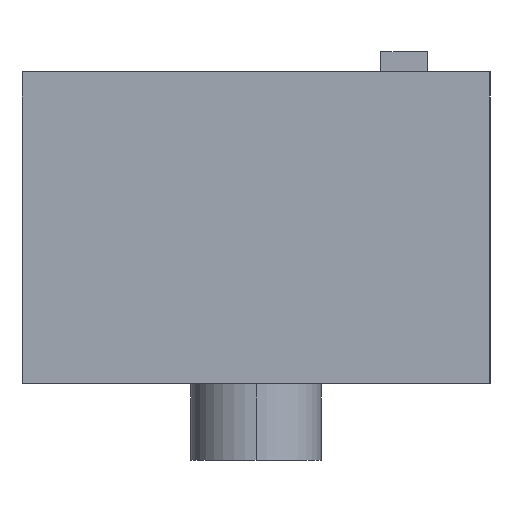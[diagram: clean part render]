
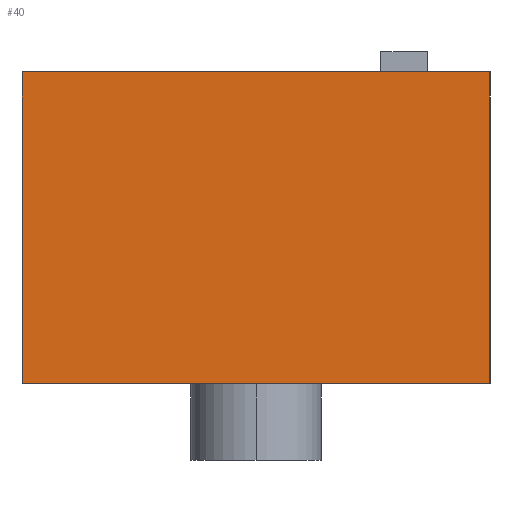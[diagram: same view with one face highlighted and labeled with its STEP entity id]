
A CAD part, left-side view. The second image highlights one B-rep face of the part: STEP entity #40.
In plain terms, the highlighted planar face has unit normal (-1, 0, 0).
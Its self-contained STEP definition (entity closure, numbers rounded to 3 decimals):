
#24 = VERTEX_POINT ( 'NONE', #358 ) ;
#40 = ADVANCED_FACE ( 'NONE', ( #394 ), #385, .T. ) ;
#49 = EDGE_CURVE ( 'NONE', #24, #82, #425, .T. ) ;
#50 = EDGE_CURVE ( 'NONE', #24, #1665, #417, .T. ) ;
#57 = ORIENTED_EDGE ( 'NONE', *, *, #1702, .F. ) ;
#59 = ORIENTED_EDGE ( 'NONE', *, *, #99, .T. ) ;
#63 = EDGE_LOOP ( 'NONE', ( #57, #79, #64, #59 ) ) ;
#64 = ORIENTED_EDGE ( 'NONE', *, *, #49, .T. ) ;
#79 = ORIENTED_EDGE ( 'NONE', *, *, #50, .F. ) ;
#82 = VERTEX_POINT ( 'NONE', #458 ) ;
#99 = EDGE_CURVE ( 'NONE', #82, #1663, #472, .T. ) ;
#358 = CARTESIAN_POINT ( 'NONE',  ( -15., 15., -20. ) ) ;
#372 = DIRECTION ( 'NONE',  ( 0., -1., 0. ) ) ;
#373 = DIRECTION ( 'NONE',  ( -1., 0., 0. ) ) ;
#374 = CARTESIAN_POINT ( 'NONE',  ( -15., 15., -20. ) ) ;
#385 = PLANE ( 'NONE',  #387 ) ;
#387 = AXIS2_PLACEMENT_3D ( 'NONE', #374, #373, #372 ) ;
#394 = FACE_OUTER_BOUND ( 'NONE', #63, .T. ) ;
#414 = DIRECTION ( 'NONE',  ( 0., 0., 1. ) ) ;
#415 = VECTOR ( 'NONE', #414, 1000. ) ;
#416 = CARTESIAN_POINT ( 'NONE',  ( -15., 15., -20. ) ) ;
#417 = LINE ( 'NONE', #416, #415 ) ;
#419 = DIRECTION ( 'NONE',  ( 0., -1., 0. ) ) ;
#420 = VECTOR ( 'NONE', #419, 1000. ) ;
#424 = CARTESIAN_POINT ( 'NONE',  ( -15., 15., -20. ) ) ;
#425 = LINE ( 'NONE', #424, #420 ) ;
#458 = CARTESIAN_POINT ( 'NONE',  ( -15., -15., -20. ) ) ;
#469 = DIRECTION ( 'NONE',  ( 0., 0., 1. ) ) ;
#470 = VECTOR ( 'NONE', #469, 1000. ) ;
#471 = CARTESIAN_POINT ( 'NONE',  ( -15., -15., -20. ) ) ;
#472 = LINE ( 'NONE', #471, #470 ) ;
#1154 = CARTESIAN_POINT ( 'NONE',  ( -15., -15., 0. ) ) ;
#1200 = CARTESIAN_POINT ( 'NONE',  ( -15., 15., 0. ) ) ;
#1247 = DIRECTION ( 'NONE',  ( 0., -1., 0. ) ) ;
#1248 = VECTOR ( 'NONE', #1247, 1000. ) ;
#1249 = CARTESIAN_POINT ( 'NONE',  ( -15., 15., 0. ) ) ;
#1256 = LINE ( 'NONE', #1249, #1248 ) ;
#1663 = VERTEX_POINT ( 'NONE', #1154 ) ;
#1665 = VERTEX_POINT ( 'NONE', #1200 ) ;
#1702 = EDGE_CURVE ( 'NONE', #1665, #1663, #1256, .T. ) ;
